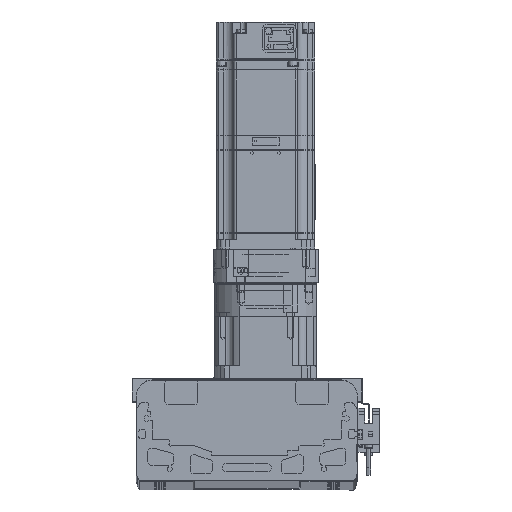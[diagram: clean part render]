
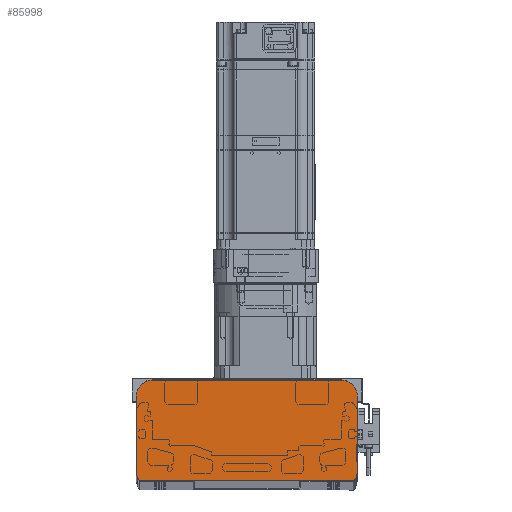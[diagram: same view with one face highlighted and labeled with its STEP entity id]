
A CAD part, top view. The second image highlights one B-rep face of the part: STEP entity #85998.
In plain terms, the highlighted planar face has unit normal (0, 0, 1).
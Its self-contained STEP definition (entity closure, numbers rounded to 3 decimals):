
#162 = LINE ( 'NONE', #62827, #110474 ) ;
#1296 = ORIENTED_EDGE ( 'NONE', *, *, #13335, .T. ) ;
#1801 = CARTESIAN_POINT ( 'NONE',  ( 395.33, 199.083, 2930. ) ) ;
#1997 = AXIS2_PLACEMENT_3D ( 'NONE', #33597, #2909, #96350 ) ;
#2539 = VERTEX_POINT ( 'NONE', #130334 ) ;
#2791 = ORIENTED_EDGE ( 'NONE', *, *, #13244, .T. ) ;
#2909 = DIRECTION ( 'NONE',  ( 0., 0., 1. ) ) ;
#10742 = DIRECTION ( 'NONE',  ( 1., 0., 0. ) ) ;
#11265 = DIRECTION ( 'NONE',  ( 1., 0., 0. ) ) ;
#13098 = CIRCLE ( 'NONE', #25879, 5. ) ;
#13244 = EDGE_CURVE ( 'NONE', #30185, #40104, #25153, .T. ) ;
#13335 = EDGE_CURVE ( 'NONE', #66601, #2539, #162, .T. ) ;
#15519 = CARTESIAN_POINT ( 'NONE',  ( 270.33, 189.083, 2930. ) ) ;
#15784 = LINE ( 'NONE', #56485, #36167 ) ;
#19292 = CARTESIAN_POINT ( 'NONE',  ( 405.33, 143.083, 2930. ) ) ;
#19907 = ORIENTED_EDGE ( 'NONE', *, *, #118017, .T. ) ;
#24446 = EDGE_CURVE ( 'NONE', #27162, #122902, #85077, .T. ) ;
#24580 = DIRECTION ( 'NONE',  ( 0., 0., 1. ) ) ;
#25153 = CIRCLE ( 'NONE', #63533, 0.5 ) ;
#25879 = AXIS2_PLACEMENT_3D ( 'NONE', #81771, #121240, #72443 ) ;
#27162 = VERTEX_POINT ( 'NONE', #57539 ) ;
#27354 = LINE ( 'NONE', #19292, #65259 ) ;
#27551 = AXIS2_PLACEMENT_3D ( 'NONE', #32652, #24580, #74005 ) ;
#29498 = CIRCLE ( 'NONE', #55093, 10. ) ;
#29587 = EDGE_CURVE ( 'NONE', #49847, #129393, #117137, .T. ) ;
#29908 = LINE ( 'NONE', #31865, #82757 ) ;
#30185 = VERTEX_POINT ( 'NONE', #122007 ) ;
#30297 = EDGE_CURVE ( 'NONE', #103804, #30185, #73201, .T. ) ;
#31406 = PLANE ( 'NONE',  #50162 ) ;
#31865 = CARTESIAN_POINT ( 'NONE',  ( 270.33, 189.083, 2930. ) ) ;
#32652 = CARTESIAN_POINT ( 'NONE',  ( 276.004, 140.933, 2930. ) ) ;
#33169 = AXIS2_PLACEMENT_3D ( 'NONE', #61440, #102215, #10742 ) ;
#33597 = CARTESIAN_POINT ( 'NONE',  ( 270.83, 143.083, 2930. ) ) ;
#34028 = DIRECTION ( 'NONE',  ( 0.242, -0.97, 0. ) ) ;
#35751 = ORIENTED_EDGE ( 'NONE', *, *, #49461, .T. ) ;
#36167 = VECTOR ( 'NONE', #97238, 1000. ) ;
#40104 = VERTEX_POINT ( 'NONE', #129397 ) ;
#40864 = DIRECTION ( 'NONE',  ( -1., 0., 0. ) ) ;
#41298 = DIRECTION ( 'NONE',  ( 0., 0., 1. ) ) ;
#41767 = CARTESIAN_POINT ( 'NONE',  ( 404.507, 139.723, 2930. ) ) ;
#42501 = CARTESIAN_POINT ( 'NONE',  ( 404.507, 139.723, 2930. ) ) ;
#42530 = EDGE_LOOP ( 'NONE', ( #120010, #47415, #99385, #92464, #2791, #102075, #35751, #1296, #126279, #19907, #88439, #86517 ) ) ;
#43155 = DIRECTION ( 'NONE',  ( 0.242, 0.97, 0. ) ) ;
#47415 = ORIENTED_EDGE ( 'NONE', *, *, #93133, .T. ) ;
#49461 = EDGE_CURVE ( 'NONE', #104516, #66601, #29498, .T. ) ;
#49847 = VERTEX_POINT ( 'NONE', #128697 ) ;
#49953 = CARTESIAN_POINT ( 'NONE',  ( 270.345, 142.962, 2930. ) ) ;
#50162 = AXIS2_PLACEMENT_3D ( 'NONE', #94156, #112899, #52741 ) ;
#52292 = CIRCLE ( 'NONE', #33169, 10. ) ;
#52741 = DIRECTION ( 'NONE',  ( 1., 0., 0. ) ) ;
#55093 = AXIS2_PLACEMENT_3D ( 'NONE', #92042, #41298, #11265 ) ;
#56485 = CARTESIAN_POINT ( 'NONE',  ( 272.291, 137.583, 2930. ) ) ;
#57539 = CARTESIAN_POINT ( 'NONE',  ( 271.152, 139.723, 2930. ) ) ;
#57835 = EDGE_CURVE ( 'NONE', #2539, #83186, #52292, .T. ) ;
#59074 = VERTEX_POINT ( 'NONE', #86690 ) ;
#61440 = CARTESIAN_POINT ( 'NONE',  ( 280.33, 189.083, 2930. ) ) ;
#62827 = CARTESIAN_POINT ( 'NONE',  ( 395.33, 199.083, 2930. ) ) ;
#63533 = AXIS2_PLACEMENT_3D ( 'NONE', #104258, #124299, #72214 ) ;
#65259 = VECTOR ( 'NONE', #109493, 1000. ) ;
#66601 = VERTEX_POINT ( 'NONE', #1801 ) ;
#72214 = DIRECTION ( 'NONE',  ( 1., 0., 0. ) ) ;
#72443 = DIRECTION ( 'NONE',  ( 1., 0., 0. ) ) ;
#73201 = LINE ( 'NONE', #42501, #100262 ) ;
#74005 = DIRECTION ( 'NONE',  ( 1., 0., 0. ) ) ;
#76203 = CARTESIAN_POINT ( 'NONE',  ( 272.291, 137.583, 2930. ) ) ;
#76779 = EDGE_CURVE ( 'NONE', #59074, #103804, #13098, .T. ) ;
#81771 = CARTESIAN_POINT ( 'NONE',  ( 399.656, 140.933, 2930. ) ) ;
#82757 = VECTOR ( 'NONE', #122674, 1000. ) ;
#83186 = VERTEX_POINT ( 'NONE', #15519 ) ;
#84075 = LINE ( 'NONE', #86694, #129973 ) ;
#85077 = CIRCLE ( 'NONE', #27551, 5. ) ;
#85998 = ADVANCED_FACE ( 'NONE', ( #112212 ), #31406, .T. ) ;
#86517 = ORIENTED_EDGE ( 'NONE', *, *, #131563, .T. ) ;
#86690 = CARTESIAN_POINT ( 'NONE',  ( 403.368, 137.583, 2930. ) ) ;
#86694 = CARTESIAN_POINT ( 'NONE',  ( 270.345, 142.962, 2930. ) ) ;
#88439 = ORIENTED_EDGE ( 'NONE', *, *, #29587, .T. ) ;
#92042 = CARTESIAN_POINT ( 'NONE',  ( 395.33, 189.083, 2930. ) ) ;
#92464 = ORIENTED_EDGE ( 'NONE', *, *, #30297, .T. ) ;
#93133 = EDGE_CURVE ( 'NONE', #122902, #59074, #15784, .T. ) ;
#94156 = CARTESIAN_POINT ( 'NONE',  ( 276.004, 140.933, 2930. ) ) ;
#96350 = DIRECTION ( 'NONE',  ( 1., 0., 0. ) ) ;
#97238 = DIRECTION ( 'NONE',  ( 1., 0., 0. ) ) ;
#99385 = ORIENTED_EDGE ( 'NONE', *, *, #76779, .T. ) ;
#100262 = VECTOR ( 'NONE', #43155, 1000. ) ;
#102075 = ORIENTED_EDGE ( 'NONE', *, *, #127458, .T. ) ;
#102215 = DIRECTION ( 'NONE',  ( 0., 0., 1. ) ) ;
#103804 = VERTEX_POINT ( 'NONE', #41767 ) ;
#104258 = CARTESIAN_POINT ( 'NONE',  ( 404.83, 143.083, 2930. ) ) ;
#104516 = VERTEX_POINT ( 'NONE', #123279 ) ;
#109493 = DIRECTION ( 'NONE',  ( 0., 1., 0. ) ) ;
#110474 = VECTOR ( 'NONE', #40864, 1000. ) ;
#112212 = FACE_OUTER_BOUND ( 'NONE', #42530, .T. ) ;
#112899 = DIRECTION ( 'NONE',  ( 0., 0., 1. ) ) ;
#117137 = CIRCLE ( 'NONE', #1997, 0.5 ) ;
#118017 = EDGE_CURVE ( 'NONE', #83186, #49847, #29908, .T. ) ;
#120010 = ORIENTED_EDGE ( 'NONE', *, *, #24446, .T. ) ;
#121240 = DIRECTION ( 'NONE',  ( 0., 0., 1. ) ) ;
#122007 = CARTESIAN_POINT ( 'NONE',  ( 405.315, 142.962, 2930. ) ) ;
#122674 = DIRECTION ( 'NONE',  ( 0., -1., 0. ) ) ;
#122902 = VERTEX_POINT ( 'NONE', #76203 ) ;
#123279 = CARTESIAN_POINT ( 'NONE',  ( 405.33, 189.083, 2930. ) ) ;
#124299 = DIRECTION ( 'NONE',  ( 0., 0., 1. ) ) ;
#126279 = ORIENTED_EDGE ( 'NONE', *, *, #57835, .T. ) ;
#127458 = EDGE_CURVE ( 'NONE', #40104, #104516, #27354, .T. ) ;
#128697 = CARTESIAN_POINT ( 'NONE',  ( 270.33, 143.083, 2930. ) ) ;
#129393 = VERTEX_POINT ( 'NONE', #49953 ) ;
#129397 = CARTESIAN_POINT ( 'NONE',  ( 405.33, 143.083, 2930. ) ) ;
#129973 = VECTOR ( 'NONE', #34028, 1000. ) ;
#130334 = CARTESIAN_POINT ( 'NONE',  ( 280.33, 199.083, 2930. ) ) ;
#131563 = EDGE_CURVE ( 'NONE', #129393, #27162, #84075, .T. ) ;
